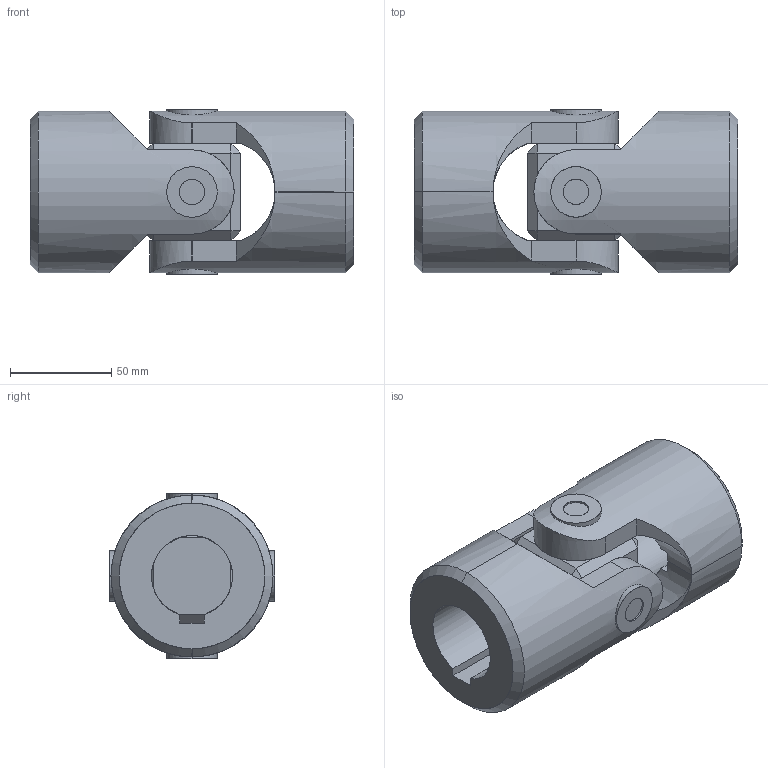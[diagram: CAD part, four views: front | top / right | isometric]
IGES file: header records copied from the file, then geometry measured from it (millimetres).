
Start section: SolidWorks IGES file using analytic representation for surfaces
Global section: file name: C:\Users\IanO\Desktop\R3690_v2\R3690_v2_20231020_IGES\R3690.040-KW.igs; native system: SolidWorks 2019; preprocessor: SolidWorks 2019; author: IanO; date: 231020.152630; units: millimetre
Bounding box: 160 x 81.6 x 81.6 mm (x, y, z)
Surface area: 99466.3 mm2 (no closed solid volume)
Topology: 0 solids, 0 shells, 110 faces, 2516 edges, 2516 vertices
Faces by surface type: bspline 62, revolution 48
